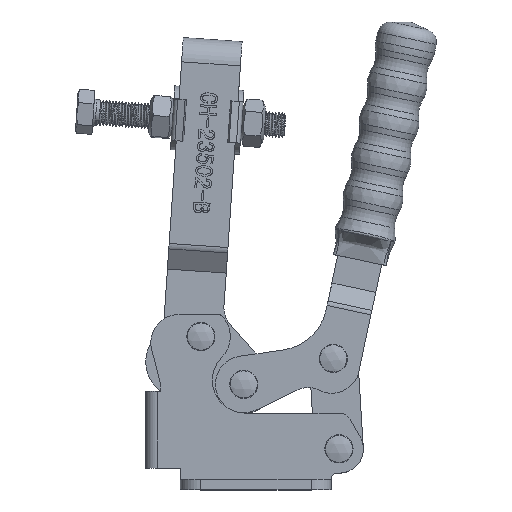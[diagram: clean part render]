
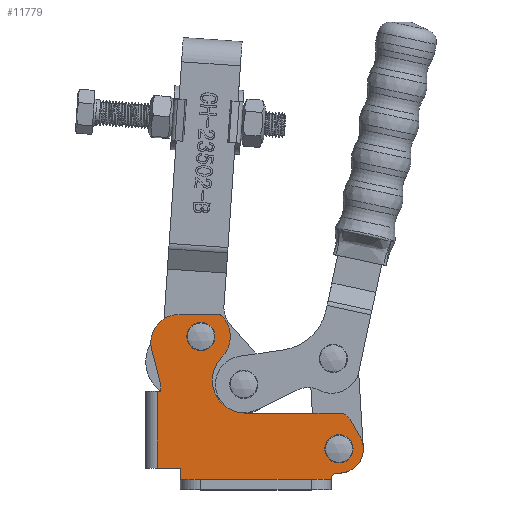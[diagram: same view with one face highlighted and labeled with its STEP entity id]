
A CAD part, top view. The second image highlights one B-rep face of the part: STEP entity #11779.
In plain terms, the highlighted planar face has unit normal (0, 0, 1).
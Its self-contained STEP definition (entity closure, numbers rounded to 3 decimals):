
#538=FACE_BOUND('',#2074,.T.);
#539=FACE_BOUND('',#2075,.T.);
#788=PLANE('',#12638);
#1390=FACE_OUTER_BOUND('',#2073,.T.);
#2073=EDGE_LOOP('',(#10810,#10811,#10812,#10813,#10814,#10815,#10816,#10817,
#10818,#10819,#10820,#10821,#10822,#10823,#10824,#10825,#10826,#10827,#10828));
#2074=EDGE_LOOP('',(#10829,#10830));
#2075=EDGE_LOOP('',(#10831,#10832));
#2387=CIRCLE('',#12639,2.);
#2388=CIRCLE('',#12640,9.5);
#2389=CIRCLE('',#12641,5.);
#2390=CIRCLE('',#12642,12.754);
#2391=CIRCLE('',#12643,11.5);
#2392=CIRCLE('',#12644,2.);
#2393=CIRCLE('',#12645,11.);
#2394=CIRCLE('',#12646,4.);
#2395=CIRCLE('',#12647,4.);
#2396=CIRCLE('',#12648,4.);
#2397=CIRCLE('',#12649,4.);
#3722=LINE('',#76541,#4675);
#3742=LINE('',#76604,#4695);
#3743=LINE('',#76606,#4696);
#3744=LINE('',#76608,#4697);
#3745=LINE('',#76609,#4698);
#3746=LINE('',#76611,#4699);
#3747=LINE('',#76615,#4700);
#3748=LINE('',#76619,#4701);
#3749=LINE('',#76623,#4702);
#3750=LINE('',#76631,#4703);
#3751=LINE('',#76635,#4704);
#3752=LINE('',#76636,#4705);
#4675=VECTOR('',#14746,1000.);
#4695=VECTOR('',#14804,1000.);
#4696=VECTOR('',#14805,1000.);
#4697=VECTOR('',#14806,1000.);
#4698=VECTOR('',#14807,1000.);
#4699=VECTOR('',#14808,1000.);
#4700=VECTOR('',#14811,1000.);
#4701=VECTOR('',#14814,1000.);
#4702=VECTOR('',#14817,1000.);
#4703=VECTOR('',#14824,1000.);
#4704=VECTOR('',#14827,1000.);
#4705=VECTOR('',#14828,1000.);
#5836=VERTEX_POINT('',#76539);
#5837=VERTEX_POINT('',#76540);
#5860=VERTEX_POINT('',#76602);
#5861=VERTEX_POINT('',#76603);
#5862=VERTEX_POINT('',#76605);
#5863=VERTEX_POINT('',#76607);
#5864=VERTEX_POINT('',#76610);
#5865=VERTEX_POINT('',#76612);
#5866=VERTEX_POINT('',#76614);
#5867=VERTEX_POINT('',#76616);
#5868=VERTEX_POINT('',#76618);
#5869=VERTEX_POINT('',#76620);
#5870=VERTEX_POINT('',#76622);
#5871=VERTEX_POINT('',#76624);
#5872=VERTEX_POINT('',#76626);
#5873=VERTEX_POINT('',#76628);
#5874=VERTEX_POINT('',#76630);
#5875=VERTEX_POINT('',#76632);
#5876=VERTEX_POINT('',#76634);
#5877=VERTEX_POINT('',#76637);
#5878=VERTEX_POINT('',#76638);
#5879=VERTEX_POINT('',#76641);
#5880=VERTEX_POINT('',#76642);
#7504=EDGE_CURVE('',#5836,#5837,#3722,.T.);
#7536=EDGE_CURVE('',#5860,#5861,#3742,.T.);
#7537=EDGE_CURVE('',#5861,#5862,#3743,.T.);
#7538=EDGE_CURVE('',#5862,#5863,#3744,.T.);
#7539=EDGE_CURVE('',#5863,#5836,#3745,.T.);
#7540=EDGE_CURVE('',#5837,#5864,#3746,.T.);
#7541=EDGE_CURVE('',#5864,#5865,#2387,.T.);
#7542=EDGE_CURVE('',#5865,#5866,#3747,.T.);
#7543=EDGE_CURVE('',#5866,#5867,#2388,.T.);
#7544=EDGE_CURVE('',#5867,#5868,#3748,.T.);
#7545=EDGE_CURVE('',#5868,#5869,#2389,.T.);
#7546=EDGE_CURVE('',#5869,#5870,#3749,.T.);
#7547=EDGE_CURVE('',#5870,#5871,#2390,.T.);
#7548=EDGE_CURVE('',#5871,#5872,#2391,.T.);
#7549=EDGE_CURVE('',#5872,#5873,#2392,.T.);
#7550=EDGE_CURVE('',#5873,#5874,#3750,.T.);
#7551=EDGE_CURVE('',#5874,#5875,#2393,.T.);
#7552=EDGE_CURVE('',#5875,#5876,#3751,.T.);
#7553=EDGE_CURVE('',#5876,#5860,#3752,.T.);
#7554=EDGE_CURVE('',#5877,#5878,#2394,.T.);
#7555=EDGE_CURVE('',#5878,#5877,#2395,.T.);
#7556=EDGE_CURVE('',#5879,#5880,#2396,.T.);
#7557=EDGE_CURVE('',#5880,#5879,#2397,.T.);
#10810=ORIENTED_EDGE('',*,*,#7536,.T.);
#10811=ORIENTED_EDGE('',*,*,#7537,.T.);
#10812=ORIENTED_EDGE('',*,*,#7538,.T.);
#10813=ORIENTED_EDGE('',*,*,#7539,.T.);
#10814=ORIENTED_EDGE('',*,*,#7504,.T.);
#10815=ORIENTED_EDGE('',*,*,#7540,.T.);
#10816=ORIENTED_EDGE('',*,*,#7541,.T.);
#10817=ORIENTED_EDGE('',*,*,#7542,.T.);
#10818=ORIENTED_EDGE('',*,*,#7543,.T.);
#10819=ORIENTED_EDGE('',*,*,#7544,.T.);
#10820=ORIENTED_EDGE('',*,*,#7545,.T.);
#10821=ORIENTED_EDGE('',*,*,#7546,.T.);
#10822=ORIENTED_EDGE('',*,*,#7547,.T.);
#10823=ORIENTED_EDGE('',*,*,#7548,.T.);
#10824=ORIENTED_EDGE('',*,*,#7549,.T.);
#10825=ORIENTED_EDGE('',*,*,#7550,.T.);
#10826=ORIENTED_EDGE('',*,*,#7551,.T.);
#10827=ORIENTED_EDGE('',*,*,#7552,.T.);
#10828=ORIENTED_EDGE('',*,*,#7553,.T.);
#10829=ORIENTED_EDGE('',*,*,#7554,.F.);
#10830=ORIENTED_EDGE('',*,*,#7555,.F.);
#10831=ORIENTED_EDGE('',*,*,#7556,.F.);
#10832=ORIENTED_EDGE('',*,*,#7557,.F.);
#11779=ADVANCED_FACE('',(#1390,#538,#539),#788,.T.);
#12638=AXIS2_PLACEMENT_3D('',#76601,#14802,#14803);
#12639=AXIS2_PLACEMENT_3D('',#76613,#14809,#14810);
#12640=AXIS2_PLACEMENT_3D('',#76617,#14812,#14813);
#12641=AXIS2_PLACEMENT_3D('',#76621,#14815,#14816);
#12642=AXIS2_PLACEMENT_3D('',#76625,#14818,#14819);
#12643=AXIS2_PLACEMENT_3D('',#76627,#14820,#14821);
#12644=AXIS2_PLACEMENT_3D('',#76629,#14822,#14823);
#12645=AXIS2_PLACEMENT_3D('',#76633,#14825,#14826);
#12646=AXIS2_PLACEMENT_3D('',#76639,#14829,#14830);
#12647=AXIS2_PLACEMENT_3D('',#76640,#14831,#14832);
#12648=AXIS2_PLACEMENT_3D('',#76643,#14833,#14834);
#12649=AXIS2_PLACEMENT_3D('',#76644,#14835,#14836);
#14746=DIRECTION('',(1.,0.,0.));
#14802=DIRECTION('center_axis',(0.,0.,1.));
#14803=DIRECTION('ref_axis',(1.,0.,0.));
#14804=DIRECTION('',(-1.,0.,0.));
#14805=DIRECTION('',(0.,-1.,0.));
#14806=DIRECTION('',(1.,0.,0.));
#14807=DIRECTION('',(0.,-1.,0.));
#14808=DIRECTION('',(0.,1.,0.));
#14809=DIRECTION('center_axis',(0.,0.,-1.));
#14810=DIRECTION('ref_axis',(1.,0.,0.));
#14811=DIRECTION('',(1.,0.,0.));
#14812=DIRECTION('center_axis',(0.,0.,1.));
#14813=DIRECTION('ref_axis',(1.,0.,0.));
#14814=DIRECTION('',(-0.5,0.866,0.));
#14815=DIRECTION('center_axis',(0.,0.,1.));
#14816=DIRECTION('ref_axis',(-1.,0.,0.));
#14817=DIRECTION('',(-1.,0.,0.));
#14818=DIRECTION('center_axis',(0.,0.,-1.));
#14819=DIRECTION('ref_axis',(1.,0.,0.));
#14820=DIRECTION('center_axis',(0.,0.,1.));
#14821=DIRECTION('ref_axis',(1.,0.,0.));
#14822=DIRECTION('center_axis',(0.,0.,1.));
#14823=DIRECTION('ref_axis',(1.,0.,0.));
#14824=DIRECTION('',(-1.,0.,0.));
#14825=DIRECTION('center_axis',(0.,0.,1.));
#14826=DIRECTION('ref_axis',(1.,0.,0.));
#14827=DIRECTION('',(0.247,-0.969,0.));
#14828=DIRECTION('',(0.,-1.,0.));
#14829=DIRECTION('center_axis',(0.,0.,1.));
#14830=DIRECTION('ref_axis',(1.,0.,0.));
#14831=DIRECTION('center_axis',(0.,0.,1.));
#14832=DIRECTION('ref_axis',(1.,0.,0.));
#14833=DIRECTION('center_axis',(0.,0.,1.));
#14834=DIRECTION('ref_axis',(1.,0.,0.));
#14835=DIRECTION('center_axis',(0.,0.,1.));
#14836=DIRECTION('ref_axis',(1.,0.,0.));
#76539=CARTESIAN_POINT('',(0.,0.,16.));
#76540=CARTESIAN_POINT('',(59.,0.,16.));
#76541=CARTESIAN_POINT('',(0.,0.,16.));
#76601=CARTESIAN_POINT('Origin',(-0.53,53.43,16.));
#76602=CARTESIAN_POINT('',(-7.6,34.4,16.));
#76603=CARTESIAN_POINT('',(-9.1,34.4,16.));
#76604=CARTESIAN_POINT('',(-13.6,34.4,16.));
#76605=CARTESIAN_POINT('',(-9.1,4.4,16.));
#76606=CARTESIAN_POINT('',(-9.1,4.4,16.));
#76607=CARTESIAN_POINT('',(0.,4.4,16.));
#76608=CARTESIAN_POINT('',(0.,4.4,16.));
#76609=CARTESIAN_POINT('',(0.,0.,16.));
#76610=CARTESIAN_POINT('',(59.,0.5,16.));
#76611=CARTESIAN_POINT('',(59.,0.,16.));
#76612=CARTESIAN_POINT('',(61.,2.5,16.));
#76613=CARTESIAN_POINT('Origin',(61.,0.5,16.));
#76614=CARTESIAN_POINT('',(61.9,2.5,16.));
#76615=CARTESIAN_POINT('',(61.9,2.5,16.));
#76616=CARTESIAN_POINT('',(70.127,16.75,16.));
#76617=CARTESIAN_POINT('Origin',(61.9,12.,16.));
#76618=CARTESIAN_POINT('',(66.244,23.476,16.));
#76619=CARTESIAN_POINT('',(66.244,23.476,16.));
#76620=CARTESIAN_POINT('',(61.914,25.976,16.));
#76621=CARTESIAN_POINT('Origin',(61.914,20.976,16.));
#76622=CARTESIAN_POINT('',(25.2,25.976,16.));
#76623=CARTESIAN_POINT('',(25.2,25.976,16.));
#76624=CARTESIAN_POINT('',(16.155,47.722,16.));
#76625=CARTESIAN_POINT('Origin',(25.2,38.73,16.));
#76626=CARTESIAN_POINT('',(16.272,63.819,16.));
#76627=CARTESIAN_POINT('Origin',(8.,55.83,16.));
#76628=CARTESIAN_POINT('',(14.833,64.43,16.));
#76629=CARTESIAN_POINT('Origin',(14.833,62.43,16.));
#76630=CARTESIAN_POINT('',(-0.53,64.43,16.));
#76631=CARTESIAN_POINT('',(-0.53,64.43,16.));
#76632=CARTESIAN_POINT('',(-11.189,50.713,16.));
#76633=CARTESIAN_POINT('Origin',(-0.53,53.43,16.));
#76634=CARTESIAN_POINT('',(-7.6,36.63,16.));
#76635=CARTESIAN_POINT('',(-7.6,36.63,16.));
#76636=CARTESIAN_POINT('',(-7.6,34.4,16.));
#76637=CARTESIAN_POINT('',(57.9,12.,16.));
#76638=CARTESIAN_POINT('',(65.9,12.,16.));
#76639=CARTESIAN_POINT('Origin',(61.9,12.,16.));
#76640=CARTESIAN_POINT('Origin',(61.9,12.,16.));
#76641=CARTESIAN_POINT('',(4.,55.83,16.));
#76642=CARTESIAN_POINT('',(12.,55.83,16.));
#76643=CARTESIAN_POINT('Origin',(8.,55.83,16.));
#76644=CARTESIAN_POINT('Origin',(8.,55.83,16.));
